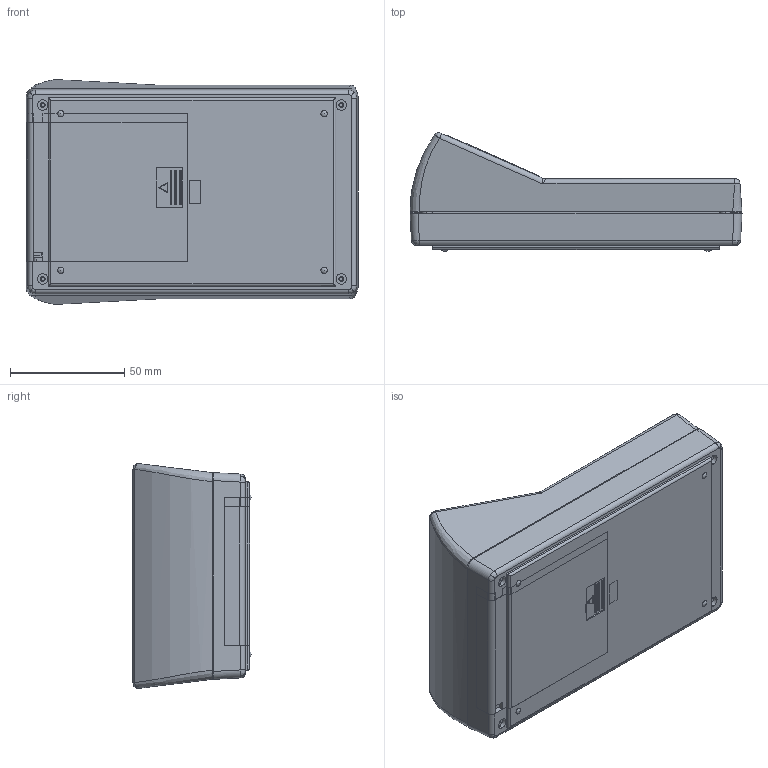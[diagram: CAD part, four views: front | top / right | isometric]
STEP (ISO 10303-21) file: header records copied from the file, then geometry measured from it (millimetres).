
FILE_DESCRIPTION (( 'STEP AP214' ), '1' );
FILE_NAME ('90-52-4A-R.STEP', '2020-10-15T16:12:08', ( 'Rudy' ), ( '' ), 'SwSTEP 2.0', 'SolidWorks 2014', '' );
FILE_SCHEMA (( 'AUTOMOTIVE_DESIGN' ));
Length unit declared in the file: millimetre
Products named in the file (6): 90 PCB 29V-4AA; 4AAdoor; 90-bessel; Top Angled LCD; 90-4AA Shallow; 90-52-4A-R
Assembly tree (5 placements, depth 2):
  90-52-4A-R
    90-4AA Shallow
    Top Angled LCD
    90-bessel
    4AAdoor
    90 PCB 29V-4AA
Bounding box: 145.5 x 51.82 x 98.54 mm (x, y, z)
Volume: 137856.3 mm3; surface area: 120942.3 mm2
Topology: 5 solids, 5 shells, 738 faces, 1986 edges, 1284 vertices
Faces by surface type: plane 491, cylinder 149, cone 44, torus 24, bspline 20, sphere 10
Entity records: 24017 total; most frequent: CARTESIAN_POINT 5345, ORIENTED_EDGE 3932, DIRECTION 3680, EDGE_CURVE 1966, VECTOR 1486, LINE 1486, VERTEX_POINT 1276, AXIS2_PLACEMENT_3D 1097
